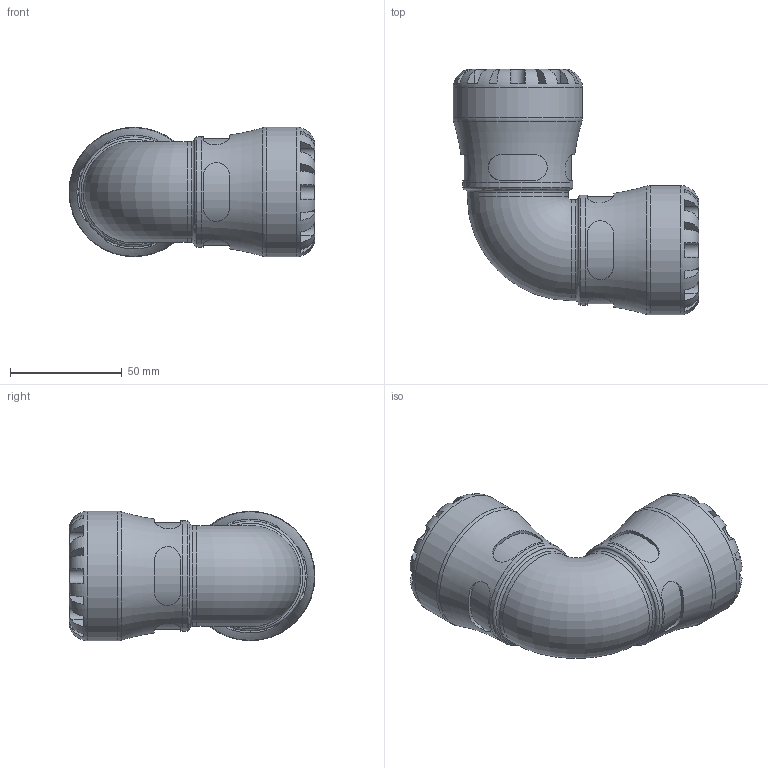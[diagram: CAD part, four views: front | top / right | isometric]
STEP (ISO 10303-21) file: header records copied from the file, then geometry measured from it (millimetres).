
FILE_DESCRIPTION(/* description */ ('PLASSON 90° ELBOW 1''''IPS SERIES 1'),/* implementation_level */ '2;1');
FILE_NAME(/* name */ 'C:\Dropbox\KIMPROJECTS-Inventor 2019\99-16-3568-Processing Inch\ASTM S1 2021\1005A\1005A6010.ipt.stp',/* time_stamp */ '2021-09-02T12:00:54+03:00',/* author */ ('KIM'),/* organization */ (''),/* preprocessor_version */ 'ST-DEVELOPER v17.2',/* originating_system */ 'Autodesk Inventor 2019',/* authorisation */ '');
FILE_SCHEMA (('AUTOMOTIVE_DESIGN { 1 0 10303 214 3 1 1 }'));
Length unit declared in the file: inch
Products named in the file (1): 1005A6010
Bounding box: 109.98 x 109.98 x 57.91 mm (x, y, z)
Volume: 189350.4 mm3; surface area: 45964.1 mm2
Topology: 1 solids, 1 shells, 196 faces, 521 edges, 335 vertices
Faces by surface type: plane 116, cylinder 66, torus 12, cone 2
Full cylindrical faces by diameter (mm): 27.75 x2, 33.3 x2, 45.171 x2, 49.225 x2, 57.912 x2
Entity records: 8020 total; most frequent: CARTESIAN_POINT 2949, ORIENTED_EDGE 1042, DIRECTION 1008, EDGE_CURVE 521, AXIS2_PLACEMENT_3D 418, VERTEX_POINT 335, CIRCLE 221, EDGE_LOOP 206
